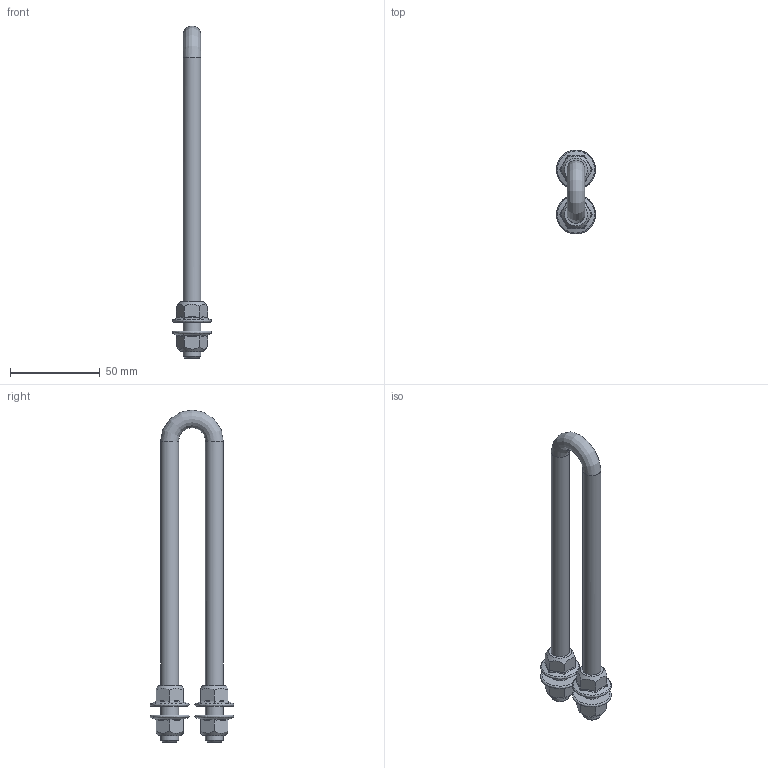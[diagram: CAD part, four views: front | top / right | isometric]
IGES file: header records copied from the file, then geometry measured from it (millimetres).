
Global section: file name: 61515_1298_0201; native system: Autodesk Inventor 2022; preprocessor: unknown; author: Nesvadba; date: 20240224.154514; units: millimetre
Bounding box: 21.78 x 46.79 x 185 mm (x, y, z)
Volume: 36881.8 mm3; surface area: 17461 mm2
Topology: 5 solids, 5 shells, 91 faces, 242 edges, 161 vertices
Faces by surface type: bspline 91
